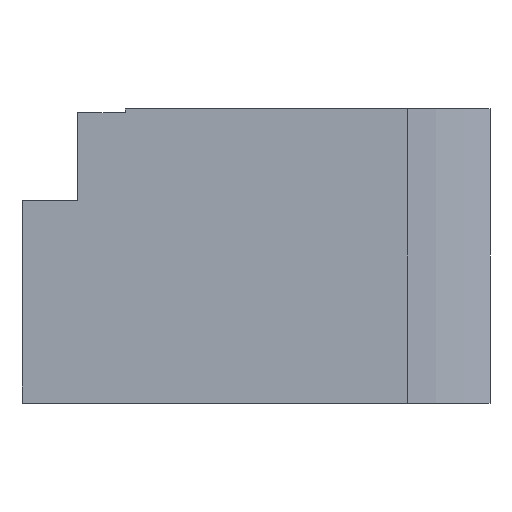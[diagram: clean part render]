
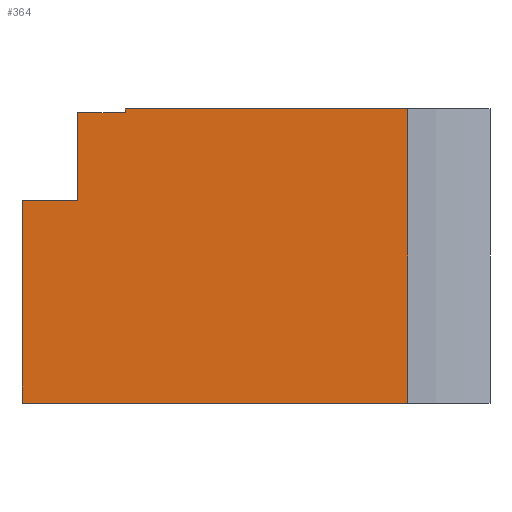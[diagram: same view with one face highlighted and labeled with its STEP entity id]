
A CAD part, left-side view. The second image highlights one B-rep face of the part: STEP entity #364.
In plain terms, the highlighted planar face has unit normal (-1, 0, 0).
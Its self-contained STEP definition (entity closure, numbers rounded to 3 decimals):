
#364=ADVANCED_FACE('',(#676),#678,.T.);
#676=FACE_BOUND('',#677,.T.);
#677=EDGE_LOOP('',(#932,#933,#934,#935,#936,#937,#938,#939));
#678=PLANE('',#679);
#679=AXIS2_PLACEMENT_3D('',#680,#681,#682);
#680=CARTESIAN_POINT('',(-302.,97.073,0.));
#681=DIRECTION('',(-1.,0.,0.));
#682=DIRECTION('',(0.,-1.,0.));
#932=ORIENTED_EDGE('',*,*,#1077,.T.);
#933=ORIENTED_EDGE('',*,*,#1036,.T.);
#934=ORIENTED_EDGE('',*,*,#1031,.T.);
#935=ORIENTED_EDGE('',*,*,#1029,.F.);
#936=ORIENTED_EDGE('',*,*,#1087,.T.);
#937=ORIENTED_EDGE('',*,*,#1088,.T.);
#938=ORIENTED_EDGE('',*,*,#1075,.T.);
#939=ORIENTED_EDGE('',*,*,#1089,.T.);
#1029=EDGE_CURVE('',#1192,#1194,#1195,.T.);
#1031=EDGE_CURVE('',#1197,#1194,#1198,.T.);
#1036=EDGE_CURVE('',#1200,#1197,#1206,.T.);
#1075=EDGE_CURVE('',#1258,#1268,#1270,.F.);
#1077=EDGE_CURVE('',#1272,#1200,#1273,.F.);
#1087=EDGE_CURVE('',#1192,#1284,#1286,.F.);
#1088=EDGE_CURVE('',#1284,#1258,#1287,.T.);
#1089=EDGE_CURVE('',#1268,#1272,#1288,.T.);
#1192=VERTEX_POINT('',#1514);
#1194=VERTEX_POINT('',#1518);
#1195=LINE('',#1519,#1520);
#1197=VERTEX_POINT('',#1526);
#1198=LINE('',#1527,#1528);
#1200=VERTEX_POINT('',#1534);
#1206=LINE('',#1547,#1548);
#1258=VERTEX_POINT('',#1671);
#1268=VERTEX_POINT('',#1693);
#1270=LINE('',#1697,#1698);
#1272=VERTEX_POINT('',#1703);
#1273=LINE('',#1704,#1705);
#1284=VERTEX_POINT('',#1733);
#1286=LINE('',#1737,#1738);
#1287=LINE('',#1740,#1741);
#1288=LINE('',#1743,#1744);
#1514=CARTESIAN_POINT('',(-302.,-26.,74.));
#1518=CARTESIAN_POINT('',(-302.,-97.073,74.));
#1519=CARTESIAN_POINT('',(-302.,-26.,74.));
#1520=VECTOR('',#1521,1.);
#1521=DIRECTION('',(0.,-1.,0.));
#1526=CARTESIAN_POINT('',(-302.,-97.073,0.));
#1527=CARTESIAN_POINT('',(-302.,-97.073,0.));
#1528=VECTOR('',#1529,1.);
#1529=DIRECTION('',(0.,0.,1.));
#1534=CARTESIAN_POINT('',(-302.,0.,0.));
#1547=CARTESIAN_POINT('',(-302.,0.,0.));
#1548=VECTOR('',#1549,1.);
#1549=DIRECTION('',(0.,-1.,0.));
#1671=CARTESIAN_POINT('',(-302.,-14.,73.));
#1693=CARTESIAN_POINT('',(-302.,-14.,51.));
#1697=CARTESIAN_POINT('',(-302.,-14.,51.));
#1698=VECTOR('',#1699,1.);
#1699=DIRECTION('',(0.,0.,1.));
#1703=CARTESIAN_POINT('',(-302.,0.,51.));
#1704=CARTESIAN_POINT('',(-302.,0.,0.));
#1705=VECTOR('',#1706,1.);
#1706=DIRECTION('',(0.,0.,1.));
#1733=CARTESIAN_POINT('',(-302.,-26.,73.));
#1737=CARTESIAN_POINT('',(-302.,-26.,73.));
#1738=VECTOR('',#1739,1.);
#1739=DIRECTION('',(0.,0.,1.));
#1740=CARTESIAN_POINT('',(-302.,-26.,73.));
#1741=VECTOR('',#1742,1.);
#1742=DIRECTION('',(0.,1.,0.));
#1743=CARTESIAN_POINT('',(-302.,-14.,51.));
#1744=VECTOR('',#1745,1.);
#1745=DIRECTION('',(0.,1.,0.));
